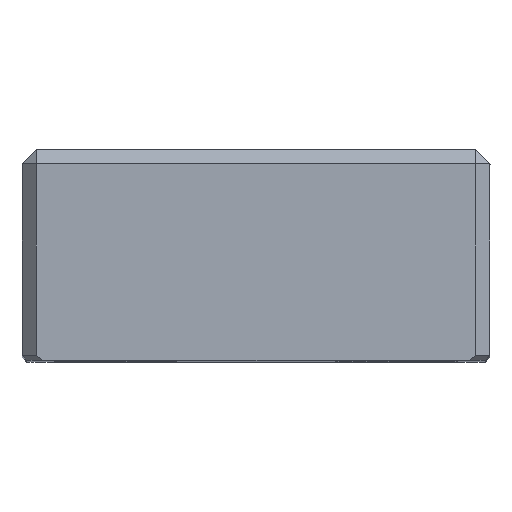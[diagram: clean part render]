
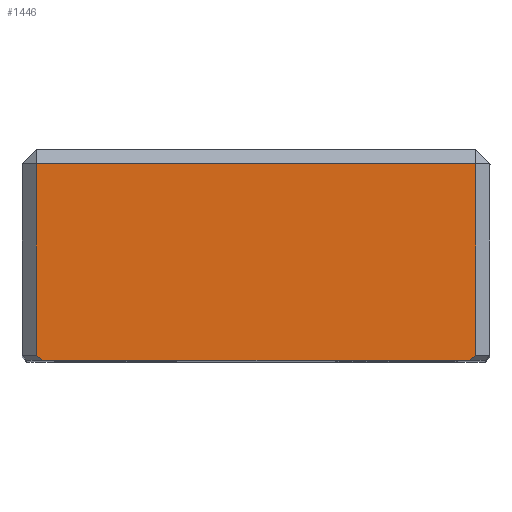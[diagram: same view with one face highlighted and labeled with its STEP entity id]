
A CAD part, top view. The second image highlights one B-rep face of the part: STEP entity #1446.
In plain terms, the highlighted planar face has unit normal (0, 0, 1).
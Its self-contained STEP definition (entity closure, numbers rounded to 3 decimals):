
#1403=AXIS2_PLACEMENT_3D('Plane Axis2P3D',#1400,#1401,#1402) ;
#632=CARTESIAN_POINT('Vertex',(-47.,-3.,0.)) ;
#635=CARTESIAN_POINT('Line Origine',(0.,-3.,0.)) ;
#639=CARTESIAN_POINT('Vertex',(47.,-3.,0.)) ;
#1400=CARTESIAN_POINT('Axis2P3D Location',(50.,0.,0.)) ;
#1405=CARTESIAN_POINT('Line Origine',(46.293,-44.5,0.)) ;
#1409=CARTESIAN_POINT('Vertex',(47.,-44.,0.)) ;
#1411=CARTESIAN_POINT('Vertex',(45.586,-45.,0.)) ;
#1414=CARTESIAN_POINT('Line Origine',(47.,-23.5,0.)) ;
#1419=CARTESIAN_POINT('Line Origine',(-47.,-23.5,0.)) ;
#1423=CARTESIAN_POINT('Vertex',(-47.,-44.,0.)) ;
#1426=CARTESIAN_POINT('Line Origine',(-46.293,-44.5,0.)) ;
#1430=CARTESIAN_POINT('Vertex',(-45.586,-45.,0.)) ;
#1433=CARTESIAN_POINT('Line Origine',(0.,-45.,0.)) ;
#636=DIRECTION('Vector Direction',(1.,0.,0.)) ;
#1401=DIRECTION('Axis2P3D Direction',(0.,0.,1.)) ;
#1402=DIRECTION('Axis2P3D XDirection',(-1.,0.,0.)) ;
#1406=DIRECTION('Vector Direction',(0.816,0.577,0.)) ;
#1415=DIRECTION('Vector Direction',(0.,-1.,0.)) ;
#1420=DIRECTION('Vector Direction',(0.,1.,0.)) ;
#1427=DIRECTION('Vector Direction',(0.816,-0.577,0.)) ;
#1434=DIRECTION('Vector Direction',(1.,0.,0.)) ;
#637=VECTOR('Line Direction',#636,1.) ;
#1407=VECTOR('Line Direction',#1406,1.) ;
#1416=VECTOR('Line Direction',#1415,1.) ;
#1421=VECTOR('Line Direction',#1420,1.) ;
#1428=VECTOR('Line Direction',#1427,1.) ;
#1435=VECTOR('Line Direction',#1434,1.) ;
#1439=ORIENTED_EDGE('',*,*,#1413,.F.) ;
#1440=ORIENTED_EDGE('',*,*,#1418,.F.) ;
#1441=ORIENTED_EDGE('',*,*,#641,.F.) ;
#1442=ORIENTED_EDGE('',*,*,#1425,.F.) ;
#1443=ORIENTED_EDGE('',*,*,#1432,.F.) ;
#1444=ORIENTED_EDGE('',*,*,#1437,.T.) ;
#1446=ADVANCED_FACE('MANIFOLD_SOLID_BREP #3241',(#1445),#1404,.T.) ;
#641=EDGE_CURVE('',#633,#640,#638,.T.) ;
#1413=EDGE_CURVE('',#1410,#1412,#1408,.F.) ;
#1418=EDGE_CURVE('',#640,#1410,#1417,.T.) ;
#1425=EDGE_CURVE('',#1424,#633,#1422,.T.) ;
#1432=EDGE_CURVE('',#1431,#1424,#1429,.F.) ;
#1437=EDGE_CURVE('',#1431,#1412,#1436,.T.) ;
#1438=EDGE_LOOP('',(#1439,#1440,#1441,#1442,#1443,#1444)) ;
#1445=FACE_OUTER_BOUND('',#1438,.T.) ;
#638=LINE('Line',#635,#637) ;
#1408=LINE('Line',#1405,#1407) ;
#1417=LINE('Line',#1414,#1416) ;
#1422=LINE('Line',#1419,#1421) ;
#1429=LINE('Line',#1426,#1428) ;
#1436=LINE('Line',#1433,#1435) ;
#1404=PLANE('Plane',#1403) ;
#633=VERTEX_POINT('',#632) ;
#640=VERTEX_POINT('',#639) ;
#1410=VERTEX_POINT('',#1409) ;
#1412=VERTEX_POINT('',#1411) ;
#1424=VERTEX_POINT('',#1423) ;
#1431=VERTEX_POINT('',#1430) ;
